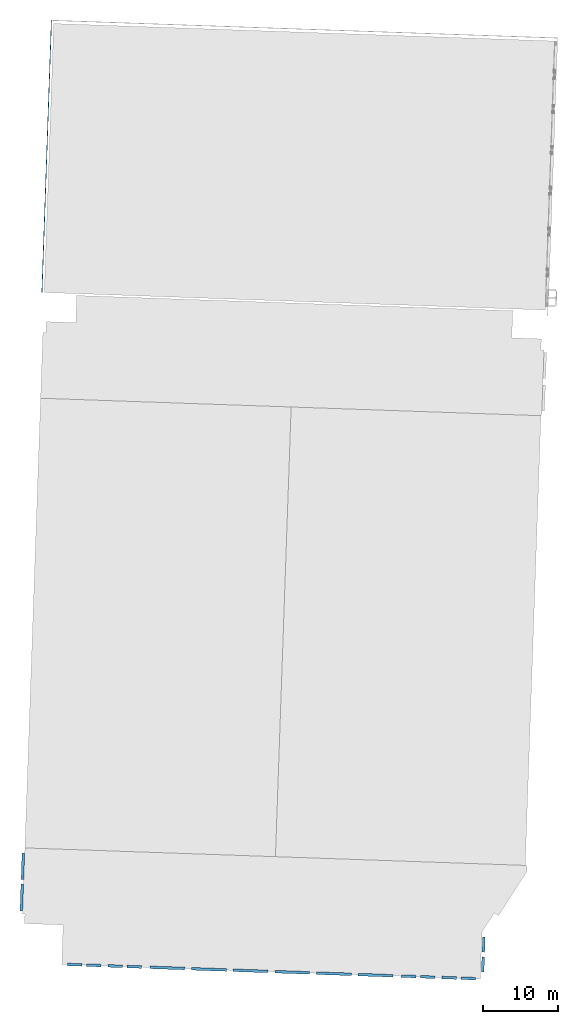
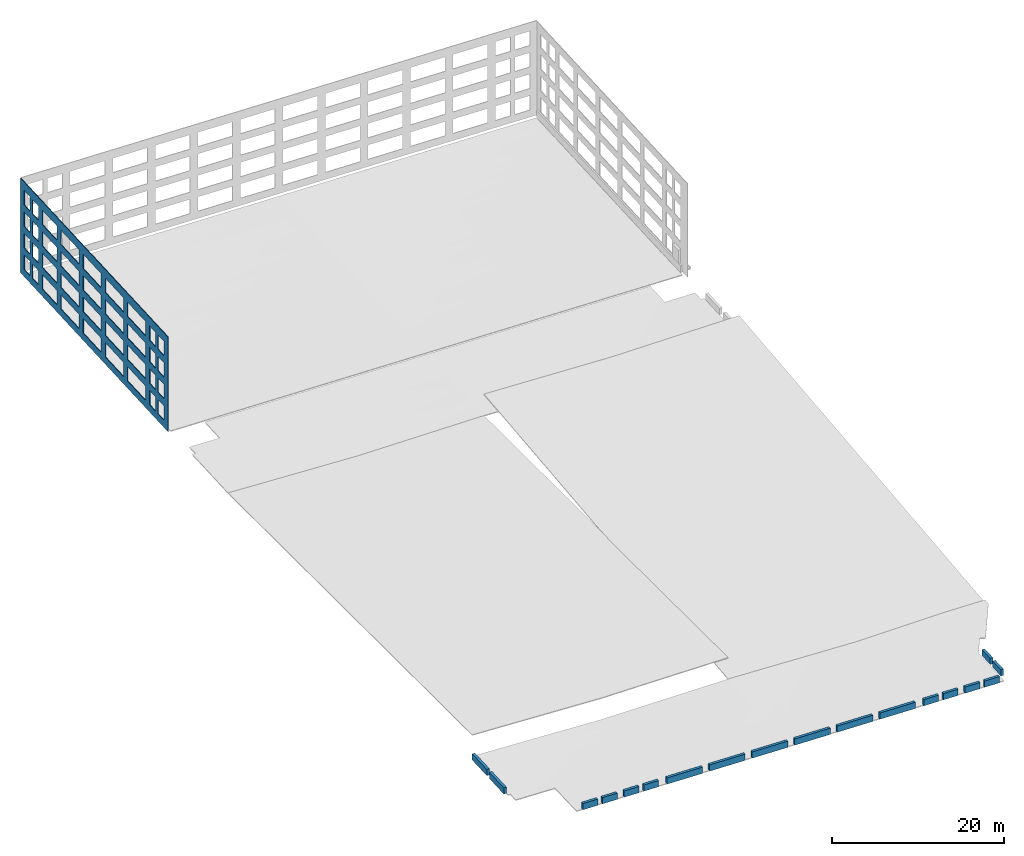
# One storey, part 2 of 7: 19 walls, 36 openings.
"""IFC2X3 building model written with IfcOpenShell, lengths in feet."""

from ifc_helpers import new_model, entity, si_unit, converted_unit, derived_unit, direction, frame, frame_2d, origin, origin_2d_with_axis, place, context, subcontext, project, spatial, rectangle, extrude, material, layer, layer_set, layer_usage, type_object, element, save


model = new_model("IFC2X3")

# Units and contexts
model_context = context("Model", 3, precision=0.0001, world=origin(), true_north=direction((0.999390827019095, 0.0348994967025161)))
body_context = subcontext(model_context, "Body", "Model", "MODEL_VIEW")
ifc_project = project(units=[converted_unit("LENGTHUNIT", "FOOT", entity("IfcRatioMeasure", 0.3048), si_unit("LENGTHUNIT", "METRE"), dimensions=[1, 0, 0, 0, 0, 0, 0]), converted_unit("AREAUNIT", "SQUARE FOOT", entity("IfcRatioMeasure", 0.09290304), si_unit("AREAUNIT", "SQUARE_METRE"), dimensions=[2, 0, 0, 0, 0, 0, 0]), converted_unit("VOLUMEUNIT", "CUBIC FOOT", entity("IfcRatioMeasure", 0.028316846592), si_unit("VOLUMEUNIT", "CUBIC_METRE"), dimensions=[3, 0, 0, 0, 0, 0, 0]), converted_unit("PLANEANGLEUNIT", "DEGREE", entity("IfcRatioMeasure", 0.0174532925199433), si_unit("PLANEANGLEUNIT", "RADIAN"), dimensions=[0, 0, 0, 0, 0, 0, 0]), si_unit("MASSUNIT", "GRAM", prefix="KILO"), si_unit("TIMEUNIT", "SECOND"), si_unit("FREQUENCYUNIT", "HERTZ"), si_unit("THERMODYNAMICTEMPERATUREUNIT", "DEGREE_CELSIUS"), derived_unit("THERMALTRANSMITTANCEUNIT", [(si_unit("MASSUNIT", "GRAM", prefix="KILO"), 1), (si_unit("THERMODYNAMICTEMPERATUREUNIT", "KELVIN"), -1), (si_unit("TIMEUNIT", "SECOND"), -3)]), derived_unit("VOLUMETRICFLOWRATEUNIT", [(si_unit("LENGTHUNIT", "METRE"), 3), (si_unit("TIMEUNIT", "SECOND"), -1)]), si_unit("ELECTRICCURRENTUNIT", "AMPERE"), si_unit("ELECTRICVOLTAGEUNIT", "VOLT"), si_unit("POWERUNIT", "WATT"), si_unit("FORCEUNIT", "NEWTON"), si_unit("ILLUMINANCEUNIT", "LUX"), si_unit("LUMINOUSFLUXUNIT", "LUMEN"), si_unit("LUMINOUSINTENSITYUNIT", "CANDELA"), derived_unit("USERDEFINED", [(si_unit("MASSUNIT", "GRAM", prefix="KILO"), -1), (si_unit("LENGTHUNIT", "METRE"), -2), (si_unit("TIMEUNIT", "SECOND"), 3), (si_unit("LUMINOUSFLUXUNIT", "LUMEN"), 1)]), derived_unit("LINEARVELOCITYUNIT", [(si_unit("LENGTHUNIT", "METRE"), 1), (si_unit("TIMEUNIT", "SECOND"), -1)]), si_unit("PRESSUREUNIT", "PASCAL"), derived_unit("USERDEFINED", [(si_unit("LENGTHUNIT", "METRE"), -2), (si_unit("MASSUNIT", "GRAM", prefix="KILO"), 1), (si_unit("TIMEUNIT", "SECOND"), -2)])], contexts=[model_context])

# Site, building, storey
site_placement = place(None, frame((892.518771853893, 322.38689265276, 0.00393700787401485), z_axis=(0.0, 0.0, 1.0), x_axis=(0.0348994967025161, 0.999390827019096, 0.0)))
site = spatial("IfcSite", under=ifc_project, at=site_placement, Name="Default", CompositionType="ELEMENT")
building_placement = place(site_placement, origin())
building = spatial("IfcBuilding", under=site, at=building_placement, CompositionType="ELEMENT")
storey_placement = place(building_placement, frame((0.0, 0.0, 567.0)))
storey = spatial("IfcBuildingStorey", under=building, at=storey_placement, Name="Existing Garage - 2nd Level", CompositionType="ELEMENT", Elevation=567.0)

# Wall, openings
ifc_material_1 = material(Name="Masonry - Brick")
ifc_layer_1 = layer(ifc_material_1, 0.302083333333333)
ifc_layer_set_1 = layer_set([ifc_layer_1], Name="Basic Wall:(Existing) Exterior - Brick Veneer 3 5/8\"")
ifc_layer_usage_1 = layer_usage(ifc_layer_set_1, "AXIS2", "POSITIVE", -0.151041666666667)
wall_type_1 = type_object("IfcWallType", Name="Basic Wall:(Existing) Exterior - Brick Veneer 3 5/8\"", PredefinedType="STANDARD", material=ifc_layer_set_1)
wall_1_placement = place(storey_placement, frame((224.1252097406, 458.112911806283, 0.0), z_axis=(0.0, 0.0, 1.0), x_axis=(-1.0, 0.0, 0.0)))
wall_1 = element("IfcWallStandardCase", 1, at=wall_1_placement, inside=storey, type_object=wall_type_1, material=ifc_layer_usage_1, Name="Basic Wall:(Existing) Exterior - Brick Veneer 3 5/8\"", ObjectType="Basic Wall:(Existing) Exterior - Brick Veneer 3 5/8\"", context=body_context, shape_type="SweptSolid", body=[
    extrude(rectangle(XDim=119.699789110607, YDim=0.302083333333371, at=frame_2d((59.8498945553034, -4.9960036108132e-16), x_axis=(-1.0, 0.0))), origin(), (0.0, 0.0, 1.0), 44.0),
])
opening_1_placement = place(wall_1_placement, origin())
element("IfcOpeningElement", 2, at=opening_1_placement, cuts=wall_1, Name="Basic Wall:(Existing) Exterior - Brick Veneer 3 5/8\"", ObjectType="Opening", context=body_context, shape_type="SweptSolid", body=[
    extrude(rectangle(XDim=6.66666666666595, YDim=4.74999999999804, at=frame_2d((1.4210854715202e-14, 5.6843418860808e-14), x_axis=(0.0, 1.0))), frame((5.40624999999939, 0.151041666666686, 36.6666666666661), z_axis=(0.0, -1.0, 0.0), x_axis=(1.0, 0.0, 0.0)), (0.0, 0.0, 1.0), 0.302083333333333),
])
opening_2_placement = place(wall_1_placement, origin())
element("IfcOpeningElement", 3, at=opening_2_placement, cuts=wall_1, Name="Basic Wall:(Existing) Exterior - Brick Veneer 3 5/8\"", ObjectType="Opening", context=body_context, shape_type="SweptSolid", body=[
    extrude(rectangle(XDim=6.66666666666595, YDim=4.74999999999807, at=frame_2d((0.0, 5.6843418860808e-14), x_axis=(0.0, 1.0))), frame((12.1562499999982, 0.151041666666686, 36.6666666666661), z_axis=(0.0, -1.0, 0.0), x_axis=(1.0, 0.0, 0.0)), (0.0, 0.0, 1.0), 0.302083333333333),
])
opening_3_placement = place(wall_1_placement, origin())
element("IfcOpeningElement", 4, at=opening_3_placement, cuts=wall_1, Name="Basic Wall:(Existing) Exterior - Brick Veneer 3 5/8\"", ObjectType="Opening", context=body_context, shape_type="SweptSolid", body=[
    extrude(rectangle(XDim=6.66666666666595, YDim=11.6666666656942, at=frame_2d((-1.4210854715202e-14, 5.6843418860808e-14), x_axis=(0.0, 1.0))), frame((23.6979166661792, 0.151041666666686, 36.6666666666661), z_axis=(0.0, -1.0, 0.0), x_axis=(1.0, 0.0, 0.0)), (0.0, 0.0, 1.0), 0.302083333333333),
])
opening_4_placement = place(wall_1_placement, origin())
element("IfcOpeningElement", 5, at=opening_4_placement, cuts=wall_1, Name="Basic Wall:(Existing) Exterior - Brick Veneer 3 5/8\"", ObjectType="Opening", context=body_context, shape_type="SweptSolid", body=[
    extrude(rectangle(XDim=6.66666666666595, YDim=14.6666666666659, at=frame_2d((-5.6843418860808e-14, 0.0), x_axis=(1.0, 0.0))), frame((40.1979166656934, 0.151041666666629, 36.6666666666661), z_axis=(0.0, -1.0, 0.0), x_axis=(0.0, 0.0, -1.0)), (0.0, 0.0, 1.0), 0.302083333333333),
])
opening_5_placement = place(wall_1_placement, origin())
element("IfcOpeningElement", 6, at=opening_5_placement, cuts=wall_1, Name="Basic Wall:(Existing) Exterior - Brick Veneer 3 5/8\"", ObjectType="Opening", context=body_context, shape_type="SweptSolid", body=[
    extrude(rectangle(XDim=6.66666666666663, YDim=14.6666666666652, at=frame_2d((0.0, 5.6843418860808e-14), x_axis=(0.0, 1.0))), frame((58.1979166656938, 0.151041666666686, 36.6666666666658), z_axis=(0.0, -1.0, 0.0), x_axis=(1.0, 0.0, 0.0)), (0.0, 0.0, 1.0), 0.302083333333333),
])
opening_6_placement = place(wall_1_placement, origin())
element("IfcOpeningElement", 7, at=opening_6_placement, cuts=wall_1, Name="Basic Wall:(Existing) Exterior - Brick Veneer 3 5/8\"", ObjectType="Opening", context=body_context, shape_type="SweptSolid", body=[
    extrude(rectangle(XDim=6.66666666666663, YDim=14.6666666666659, at=frame_2d((5.6843418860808e-14, 0.0), x_axis=(1.0, 0.0))), frame((76.1979166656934, 0.151041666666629, 36.6666666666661), z_axis=(0.0, -1.0, 0.0), x_axis=(0.0, 0.0, -1.0)), (0.0, 0.0, 1.0), 0.302083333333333),
])
opening_7_placement = place(wall_1_placement, origin())
element("IfcOpeningElement", 8, at=opening_7_placement, cuts=wall_1, Name="Basic Wall:(Existing) Exterior - Brick Veneer 3 5/8\"", ObjectType="Opening", context=body_context, shape_type="SweptSolid", body=[
    extrude(rectangle(XDim=6.66666666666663, YDim=14.6666666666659, at=frame_2d((-5.6843418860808e-14, 0.0), x_axis=(1.0, 0.0))), frame((94.1979166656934, 0.151041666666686, 36.6666666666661), z_axis=(0.0, -1.0, 0.0), x_axis=(0.0, 0.0, -1.0)), (0.0, 0.0, 1.0), 0.302083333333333),
])
opening_8_placement = place(wall_1_placement, origin())
element("IfcOpeningElement", 9, at=opening_8_placement, cuts=wall_1, Name="Basic Wall:(Existing) Exterior - Brick Veneer 3 5/8\"", ObjectType="Opening", context=body_context, shape_type="SweptSolid", body=[
    extrude(rectangle(XDim=6.6666666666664, YDim=4.75093622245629, at=frame_2d((0.0, 5.6843418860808e-14), x_axis=(0.0, 1.0))), frame((107.240051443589, 0.151041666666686, 36.6666666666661), z_axis=(0.0, -1.0, 0.0), x_axis=(1.0, 0.0, 0.0)), (0.0, 0.0, 1.0), 0.302083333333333),
])
opening_9_placement = place(wall_1_placement, origin())
element("IfcOpeningElement", 10, at=opening_9_placement, cuts=wall_1, Name="Basic Wall:(Existing) Exterior - Brick Veneer 3 5/8\"", ObjectType="Opening", context=body_context, shape_type="SweptSolid", body=[
    extrude(rectangle(XDim=6.66666666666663, YDim=4.75093622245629, at=frame_2d((-5.6843418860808e-14, 0.0), x_axis=(1.0, 0.0))), frame((113.990987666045, 0.151041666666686, 36.6666666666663), z_axis=(0.0, -1.0, 0.0), x_axis=(0.0, 0.0, 1.0)), (0.0, 0.0, 1.0), 0.302083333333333),
])
opening_10_placement = place(wall_1_placement, origin())
element("IfcOpeningElement", 11, at=opening_10_placement, cuts=wall_1, Name="Basic Wall:(Existing) Exterior - Brick Veneer 3 5/8\"", ObjectType="Opening", context=body_context, shape_type="SweptSolid", body=[
    extrude(rectangle(XDim=6.66666666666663, YDim=4.75093622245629, at=frame_2d((5.6843418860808e-14, 0.0), x_axis=(1.0, 0.0))), frame((107.240051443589, 0.151041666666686, 26.6666666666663), z_axis=(0.0, -1.0, 0.0), x_axis=(0.0, 0.0, -1.0)), (0.0, 0.0, 1.0), 0.302083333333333),
])
opening_11_placement = place(wall_1_placement, origin())
element("IfcOpeningElement", 12, at=opening_11_placement, cuts=wall_1, Name="Basic Wall:(Existing) Exterior - Brick Veneer 3 5/8\"", ObjectType="Opening", context=body_context, shape_type="SweptSolid", body=[
    extrude(rectangle(XDim=6.66666666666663, YDim=4.75093622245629, at=frame_2d((5.6843418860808e-14, 0.0), x_axis=(1.0, 0.0))), frame((113.990987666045, 0.151041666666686, 26.6666666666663), z_axis=(0.0, -1.0, 0.0), x_axis=(0.0, 0.0, -1.0)), (0.0, 0.0, 1.0), 0.302083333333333),
])
opening_12_placement = place(wall_1_placement, origin())
element("IfcOpeningElement", 13, at=opening_12_placement, cuts=wall_1, Name="Basic Wall:(Existing) Exterior - Brick Veneer 3 5/8\"", ObjectType="Opening", context=body_context, shape_type="SweptSolid", body=[
    extrude(rectangle(XDim=6.66666666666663, YDim=14.6666666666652, at=frame_2d((0.0, -5.6843418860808e-14), x_axis=(0.0, 1.0))), frame((94.1979166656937, 0.151041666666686, 26.6666666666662), z_axis=(0.0, -1.0, 0.0), x_axis=(1.0, 0.0, 0.0)), (0.0, 0.0, 1.0), 0.302083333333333),
])
opening_13_placement = place(wall_1_placement, origin())
element("IfcOpeningElement", 14, at=opening_13_placement, cuts=wall_1, Name="Basic Wall:(Existing) Exterior - Brick Veneer 3 5/8\"", ObjectType="Opening", context=body_context, shape_type="SweptSolid", body=[
    extrude(rectangle(XDim=6.66666666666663, YDim=14.6666666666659, at=frame_2d((5.6843418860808e-14, 0.0), x_axis=(1.0, 0.0))), frame((76.1979166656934, 0.151041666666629, 26.6666666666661), z_axis=(0.0, -1.0, 0.0), x_axis=(0.0, 0.0, -1.0)), (0.0, 0.0, 1.0), 0.302083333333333),
])
opening_14_placement = place(wall_1_placement, origin())
element("IfcOpeningElement", 15, at=opening_14_placement, cuts=wall_1, Name="Basic Wall:(Existing) Exterior - Brick Veneer 3 5/8\"", ObjectType="Opening", context=body_context, shape_type="SweptSolid", body=[
    extrude(rectangle(XDim=6.66666666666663, YDim=14.6666666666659, at=frame_2d((-5.6843418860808e-14, 0.0), x_axis=(1.0, 0.0))), frame((58.1979166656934, 0.151041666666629, 26.6666666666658), z_axis=(0.0, -1.0, 0.0), x_axis=(0.0, 0.0, -1.0)), (0.0, 0.0, 1.0), 0.302083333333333),
])
opening_15_placement = place(wall_1_placement, origin())
element("IfcOpeningElement", 16, at=opening_15_placement, cuts=wall_1, Name="Basic Wall:(Existing) Exterior - Brick Veneer 3 5/8\"", ObjectType="Opening", context=body_context, shape_type="SweptSolid", body=[
    extrude(rectangle(XDim=6.66666666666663, YDim=14.6666666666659, at=frame_2d((5.6843418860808e-14, 0.0), x_axis=(1.0, 0.0))), frame((40.1979166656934, 0.151041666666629, 26.6666666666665), z_axis=(0.0, -1.0, 0.0), x_axis=(0.0, 0.0, -1.0)), (0.0, 0.0, 1.0), 0.302083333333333),
])
opening_16_placement = place(wall_1_placement, origin())
element("IfcOpeningElement", 17, at=opening_16_placement, cuts=wall_1, Name="Basic Wall:(Existing) Exterior - Brick Veneer 3 5/8\"", ObjectType="Opening", context=body_context, shape_type="SweptSolid", body=[
    extrude(rectangle(XDim=6.66666666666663, YDim=11.6666666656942, at=frame_2d((1.4210854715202e-14, -5.6843418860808e-14), x_axis=(0.0, 1.0))), frame((23.6979166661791, 0.151041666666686, 26.6666666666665), z_axis=(0.0, -1.0, 0.0), x_axis=(1.0, 0.0, 0.0)), (0.0, 0.0, 1.0), 0.302083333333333),
])
opening_17_placement = place(wall_1_placement, origin())
element("IfcOpeningElement", 18, at=opening_17_placement, cuts=wall_1, Name="Basic Wall:(Existing) Exterior - Brick Veneer 3 5/8\"", ObjectType="Opening", context=body_context, shape_type="SweptSolid", body=[
    extrude(rectangle(XDim=6.66666666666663, YDim=4.74999999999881, at=frame_2d((0.0, -5.6843418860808e-14), x_axis=(0.0, 1.0))), frame((12.1562499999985, 0.151041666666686, 26.6666666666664), z_axis=(0.0, -1.0, 0.0), x_axis=(-1.0, 0.0, 0.0)), (0.0, 0.0, 1.0), 0.302083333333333),
])
opening_18_placement = place(wall_1_placement, origin())
element("IfcOpeningElement", 19, at=opening_18_placement, cuts=wall_1, Name="Basic Wall:(Existing) Exterior - Brick Veneer 3 5/8\"", ObjectType="Opening", context=body_context, shape_type="SweptSolid", body=[
    extrude(rectangle(XDim=6.66666666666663, YDim=4.74999999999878, at=frame_2d((5.6843418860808e-14, -1.4210854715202e-14), x_axis=(1.0, 0.0))), frame((5.40624999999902, 0.151041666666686, 26.6666666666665), z_axis=(0.0, -1.0, 0.0), x_axis=(0.0, 0.0, -1.0)), (0.0, 0.0, 1.0), 0.302083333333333),
])
opening_19_placement = place(wall_1_placement, origin())
element("IfcOpeningElement", 20, at=opening_19_placement, cuts=wall_1, Name="Basic Wall:(Existing) Exterior - Brick Veneer 3 5/8\"", ObjectType="Opening", context=body_context, shape_type="SweptSolid", body=[
    extrude(rectangle(XDim=6.66666666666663, YDim=4.74999999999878, at=frame_2d((5.6843418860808e-14, -1.4210854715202e-14), x_axis=(1.0, 0.0))), frame((5.40624999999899, 0.151041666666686, 16.6666666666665), z_axis=(0.0, -1.0, 0.0), x_axis=(0.0, 0.0, -1.0)), (0.0, 0.0, 1.0), 0.302083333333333),
])
opening_20_placement = place(wall_1_placement, origin())
element("IfcOpeningElement", 21, at=opening_20_placement, cuts=wall_1, Name="Basic Wall:(Existing) Exterior - Brick Veneer 3 5/8\"", ObjectType="Opening", context=body_context, shape_type="SweptSolid", body=[
    extrude(rectangle(XDim=6.66666666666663, YDim=4.74999999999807, at=frame_2d((0.0, -5.6843418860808e-14), x_axis=(0.0, 1.0))), frame((12.1562499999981, 0.151041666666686, 16.6666666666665), z_axis=(0.0, -1.0, 0.0), x_axis=(1.0, 0.0, 0.0)), (0.0, 0.0, 1.0), 0.302083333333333),
])
opening_21_placement = place(wall_1_placement, origin())
element("IfcOpeningElement", 22, at=opening_21_placement, cuts=wall_1, Name="Basic Wall:(Existing) Exterior - Brick Veneer 3 5/8\"", ObjectType="Opening", context=body_context, shape_type="SweptSolid", body=[
    extrude(rectangle(XDim=6.66666666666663, YDim=11.666666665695, at=frame_2d((5.6843418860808e-14, 1.4210854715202e-14), x_axis=(1.0, 0.0))), frame((23.6979166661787, 0.151041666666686, 16.6666666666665), z_axis=(0.0, -1.0, 0.0), x_axis=(0.0, 0.0, -1.0)), (0.0, 0.0, 1.0), 0.302083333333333),
])
opening_22_placement = place(wall_1_placement, origin())
element("IfcOpeningElement", 23, at=opening_22_placement, cuts=wall_1, Name="Basic Wall:(Existing) Exterior - Brick Veneer 3 5/8\"", ObjectType="Opening", context=body_context, shape_type="SweptSolid", body=[
    extrude(rectangle(XDim=6.66666666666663, YDim=14.6666666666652, at=frame_2d((0.0, -5.6843418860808e-14), x_axis=(0.0, 1.0))), frame((40.1979166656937, 0.151041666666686, 16.6666666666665), z_axis=(0.0, -1.0, 0.0), x_axis=(1.0, 0.0, 0.0)), (0.0, 0.0, 1.0), 0.302083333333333),
])
opening_23_placement = place(wall_1_placement, origin())
element("IfcOpeningElement", 24, at=opening_23_placement, cuts=wall_1, Name="Basic Wall:(Existing) Exterior - Brick Veneer 3 5/8\"", ObjectType="Opening", context=body_context, shape_type="SweptSolid", body=[
    extrude(rectangle(XDim=6.66666666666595, YDim=14.6666666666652, at=frame_2d((0.0, 5.6843418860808e-14), x_axis=(0.0, 1.0))), frame((58.1979166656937, 0.151041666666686, 16.6666666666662), z_axis=(0.0, -1.0, 0.0), x_axis=(1.0, 0.0, 0.0)), (0.0, 0.0, 1.0), 0.302083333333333),
])
opening_24_placement = place(wall_1_placement, origin())
element("IfcOpeningElement", 25, at=opening_24_placement, cuts=wall_1, Name="Basic Wall:(Existing) Exterior - Brick Veneer 3 5/8\"", ObjectType="Opening", context=body_context, shape_type="SweptSolid", body=[
    extrude(rectangle(XDim=6.66666666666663, YDim=14.6666666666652, at=frame_2d((0.0, -5.6843418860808e-14), x_axis=(0.0, 1.0))), frame((76.1979166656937, 0.151041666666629, 16.6666666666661), z_axis=(0.0, -1.0, 0.0), x_axis=(1.0, 0.0, 0.0)), (0.0, 0.0, 1.0), 0.302083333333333),
])
opening_25_placement = place(wall_1_placement, origin())
element("IfcOpeningElement", 26, at=opening_25_placement, cuts=wall_1, Name="Basic Wall:(Existing) Exterior - Brick Veneer 3 5/8\"", ObjectType="Opening", context=body_context, shape_type="SweptSolid", body=[
    extrude(rectangle(XDim=6.66666666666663, YDim=14.6666666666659, at=frame_2d((-5.6843418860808e-14, 0.0), x_axis=(1.0, 0.0))), frame((94.1979166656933, 0.151041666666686, 16.6666666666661), z_axis=(0.0, -1.0, 0.0), x_axis=(0.0, 0.0, -1.0)), (0.0, 0.0, 1.0), 0.302083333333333),
])
opening_26_placement = place(wall_1_placement, origin())
element("IfcOpeningElement", 27, at=opening_26_placement, cuts=wall_1, Name="Basic Wall:(Existing) Exterior - Brick Veneer 3 5/8\"", ObjectType="Opening", context=body_context, shape_type="SweptSolid", body=[
    extrude(rectangle(XDim=6.66666666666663, YDim=4.75093622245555, at=frame_2d((0.0, -5.6843418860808e-14), x_axis=(0.0, 1.0))), frame((107.240051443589, 0.151041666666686, 16.6666666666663), z_axis=(0.0, -1.0, 0.0), x_axis=(1.0, 0.0, 0.0)), (0.0, 0.0, 1.0), 0.302083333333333),
])
opening_27_placement = place(wall_1_placement, origin())
element("IfcOpeningElement", 28, at=opening_27_placement, cuts=wall_1, Name="Basic Wall:(Existing) Exterior - Brick Veneer 3 5/8\"", ObjectType="Opening", context=body_context, shape_type="SweptSolid", body=[
    extrude(rectangle(XDim=6.66666666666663, YDim=4.75093622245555, at=frame_2d((0.0, -5.6843418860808e-14), x_axis=(0.0, 1.0))), frame((113.990987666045, 0.151041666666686, 16.6666666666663), z_axis=(0.0, -1.0, 0.0), x_axis=(1.0, 0.0, 0.0)), (0.0, 0.0, 1.0), 0.302083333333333),
])
opening_28_placement = place(wall_1_placement, origin())
element("IfcOpeningElement", 29, at=opening_28_placement, cuts=wall_1, Name="Basic Wall:(Existing) Exterior - Brick Veneer 3 5/8\"", ObjectType="Opening", context=body_context, shape_type="SweptSolid", body=[
    extrude(rectangle(XDim=6.66666666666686, YDim=4.75093622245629, at=frame_2d((-5.6843418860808e-14, 0.0), x_axis=(1.0, 0.0))), frame((107.240051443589, 0.151041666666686, 6.66666666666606), z_axis=(0.0, -1.0, 0.0), x_axis=(0.0, 0.0, -1.0)), (0.0, 0.0, 1.0), 0.302083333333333),
])
opening_29_placement = place(wall_1_placement, origin())
element("IfcOpeningElement", 30, at=opening_29_placement, cuts=wall_1, Name="Basic Wall:(Existing) Exterior - Brick Veneer 3 5/8\"", ObjectType="Opening", context=body_context, shape_type="SweptSolid", body=[
    extrude(rectangle(XDim=6.66666666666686, YDim=4.75093622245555, at=frame_2d((0.0, 5.6843418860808e-14), x_axis=(0.0, 1.0))), frame((113.990987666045, 0.151041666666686, 6.66666666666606), z_axis=(0.0, -1.0, 0.0), x_axis=(1.0, 0.0, 0.0)), (0.0, 0.0, 1.0), 0.302083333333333),
])
opening_30_placement = place(wall_1_placement, origin())
element("IfcOpeningElement", 31, at=opening_30_placement, cuts=wall_1, Name="Basic Wall:(Existing) Exterior - Brick Veneer 3 5/8\"", ObjectType="Opening", context=body_context, shape_type="SweptSolid", body=[
    extrude(rectangle(XDim=6.66666666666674, YDim=14.6666666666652, at=frame_2d((0.0, 0.0), x_axis=(0.0, 1.0))), frame((94.1979166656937, 0.151041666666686, 6.66666666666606), z_axis=(0.0, -1.0, 0.0), x_axis=(1.0, 0.0, 0.0)), (0.0, 0.0, 1.0), 0.302083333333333),
])
opening_31_placement = place(wall_1_placement, origin())
element("IfcOpeningElement", 32, at=opening_31_placement, cuts=wall_1, Name="Basic Wall:(Existing) Exterior - Brick Veneer 3 5/8\"", ObjectType="Opening", context=body_context, shape_type="SweptSolid", body=[
    extrude(rectangle(XDim=6.66666666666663, YDim=14.6666666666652, at=frame_2d((0.0, -5.6843418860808e-14), x_axis=(0.0, 1.0))), frame((76.1979166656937, 0.151041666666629, 6.66666666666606), z_axis=(0.0, -1.0, 0.0), x_axis=(1.0, 0.0, 0.0)), (0.0, 0.0, 1.0), 0.302083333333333),
])
opening_32_placement = place(wall_1_placement, origin())
element("IfcOpeningElement", 33, at=opening_32_placement, cuts=wall_1, Name="Basic Wall:(Existing) Exterior - Brick Veneer 3 5/8\"", ObjectType="Opening", context=body_context, shape_type="SweptSolid", body=[
    extrude(rectangle(XDim=6.6666666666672, YDim=14.6666666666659, at=origin_2d_with_axis()), frame((58.1979166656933, 0.151041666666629, 6.66666666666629), z_axis=(0.0, -1.0, 0.0), x_axis=(0.0, 0.0, -1.0)), (0.0, 0.0, 1.0), 0.302083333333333),
])
opening_33_placement = place(wall_1_placement, origin())
element("IfcOpeningElement", 34, at=opening_33_placement, cuts=wall_1, Name="Basic Wall:(Existing) Exterior - Brick Veneer 3 5/8\"", ObjectType="Opening", context=body_context, shape_type="SweptSolid", body=[
    extrude(rectangle(XDim=6.66666666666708, YDim=14.6666666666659, at=frame_2d((5.6843418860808e-14, 0.0), x_axis=(1.0, 0.0))), frame((40.1979166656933, 0.151041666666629, 6.66666666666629), z_axis=(0.0, -1.0, 0.0), x_axis=(0.0, 0.0, -1.0)), (0.0, 0.0, 1.0), 0.302083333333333),
])
opening_34_placement = place(wall_1_placement, origin())
element("IfcOpeningElement", 35, at=opening_34_placement, cuts=wall_1, Name="Basic Wall:(Existing) Exterior - Brick Veneer 3 5/8\"", ObjectType="Opening", context=body_context, shape_type="SweptSolid", body=[
    extrude(rectangle(XDim=6.66666666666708, YDim=11.666666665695, at=frame_2d((5.6843418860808e-14, 1.4210854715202e-14), x_axis=(1.0, 0.0))), frame((23.6979166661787, 0.151041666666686, 6.66666666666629), z_axis=(0.0, -1.0, 0.0), x_axis=(0.0, 0.0, -1.0)), (0.0, 0.0, 1.0), 0.302083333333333),
])
opening_35_placement = place(wall_1_placement, origin())
element("IfcOpeningElement", 36, at=opening_35_placement, cuts=wall_1, Name="Basic Wall:(Existing) Exterior - Brick Veneer 3 5/8\"", ObjectType="Opening", context=body_context, shape_type="SweptSolid", body=[
    extrude(rectangle(XDim=6.66666666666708, YDim=4.74999999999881, at=frame_2d((0.0, -5.6843418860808e-14), x_axis=(0.0, 1.0))), frame((12.1562499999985, 0.151041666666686, 6.66666666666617), z_axis=(0.0, -1.0, 0.0), x_axis=(-1.0, 0.0, 0.0)), (0.0, 0.0, 1.0), 0.302083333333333),
])
opening_36_placement = place(wall_1_placement, origin())
element("IfcOpeningElement", 37, at=opening_36_placement, cuts=wall_1, Name="Basic Wall:(Existing) Exterior - Brick Veneer 3 5/8\"", ObjectType="Opening", context=body_context, shape_type="SweptSolid", body=[
    extrude(rectangle(XDim=6.66666666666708, YDim=4.74999999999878, at=frame_2d((5.6843418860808e-14, 1.4210854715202e-14), x_axis=(1.0, 0.0))), frame((5.40624999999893, 0.151041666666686, 6.66666666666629), z_axis=(0.0, -1.0, 0.0), x_axis=(0.0, 0.0, -1.0)), (0.0, 0.0, 1.0), 0.302083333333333),
])

# Walls
ifc_layer_2 = layer(ifc_material_1, 0.302083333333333)
ifc_material_2 = material(Name="Misc. Air Layers - Air Space")
ifc_layer_3 = layer(ifc_material_2, 0.197916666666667)
ifc_material_3 = material(Name="Concrete - Cast-in-Place Concrete_hatch surface")
ifc_layer_4 = layer(ifc_material_3, 0.666666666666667)
ifc_layer_set_2 = layer_set([ifc_layer_2, ifc_layer_3, ifc_layer_4], Name="Basic Wall:(existing)Exterior - Brick on Conc - 1'-2\"(2\" air space)")
ifc_layer_usage_2 = layer_usage(ifc_layer_set_2, "AXIS2", "POSITIVE", -0.583333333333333)
wall_type_2 = type_object("IfcWallType", Name="Basic Wall:(existing)Exterior - Brick on Conc - 1'-2\"(2\" air space)", PredefinedType="STANDARD", material=ifc_layer_set_2)
wall_2_placement = place(storey_placement, frame((-187.572745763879, 253.847286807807, 0.0)))
element("IfcWallStandardCase", 38, at=wall_2_placement, inside=storey, type_object=wall_type_2, material=ifc_layer_usage_2, Name="Basic Wall:(existing)Exterior - Brick on Conc - 1'-2\"(2\" air space)", ObjectType="Basic Wall:(existing)Exterior - Brick on Conc - 1'-2\"(2\" air space)", context=body_context, shape_type="SweptSolid", body=[
    extrude(rectangle(XDim=6.66666666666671, YDim=1.16666666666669, at=frame_2d((3.33333333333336, -5.82867087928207e-15), x_axis=(-1.0, 0.0))), origin(), (0.0, 0.0, 1.0), 2.89583333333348),
])
ifc_layer_usage_3 = layer_usage(ifc_layer_set_2, "AXIS2", "POSITIVE", -0.583333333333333)
wall_3_placement = place(storey_placement, frame((-178.906079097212, 253.847286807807, 0.0)))
element("IfcWallStandardCase", 39, at=wall_3_placement, inside=storey, type_object=wall_type_2, material=ifc_layer_usage_3, Name="Basic Wall:(existing)Exterior - Brick on Conc - 1'-2\"(2\" air space)", ObjectType="Basic Wall:(existing)Exterior - Brick on Conc - 1'-2\"(2\" air space)", context=body_context, shape_type="SweptSolid", body=[
    extrude(rectangle(XDim=6.66666666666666, YDim=1.16666666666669, at=frame_2d((3.33333333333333, -5.82867087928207e-15), x_axis=(-1.0, 0.0))), origin(), (0.0, 0.0, 1.0), 2.89583333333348),
])
ifc_layer_usage_4 = layer_usage(ifc_layer_set_2, "AXIS2", "POSITIVE", -0.583333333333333)
wall_4_placement = place(storey_placement, frame((-190.656079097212, 436.597423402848, 0.0), z_axis=(0.0, 0.0, 1.0), x_axis=(0.0, -1.0, 0.0)))
element("IfcWallStandardCase", 40, at=wall_4_placement, inside=storey, type_object=wall_type_2, material=ifc_layer_usage_4, Name="Basic Wall:(existing)Exterior - Brick on Conc - 1'-2\"(2\" air space)", ObjectType="Basic Wall:(existing)Exterior - Brick on Conc - 1'-2\"(2\" air space)", context=body_context, shape_type="SweptSolid", body=[
    extrude(rectangle(XDim=6.41670081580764, YDim=1.16666666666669, at=frame_2d((3.20835040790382, -3.38618022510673e-15), x_axis=(-1.0, 0.0))), origin(), (0.0, 0.0, 1.0), 2.89583333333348),
])
ifc_layer_usage_5 = layer_usage(ifc_layer_set_2, "AXIS2", "POSITIVE", -0.583333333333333)
wall_5_placement = place(storey_placement, frame((-190.656079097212, 428.180722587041, 0.0), z_axis=(0.0, 0.0, 1.0), x_axis=(0.0, -1.0, 0.0)))
element("IfcWallStandardCase", 41, at=wall_5_placement, inside=storey, type_object=wall_type_2, material=ifc_layer_usage_5, Name="Basic Wall:(existing)Exterior - Brick on Conc - 1'-2\"(2\" air space)", ObjectType="Basic Wall:(existing)Exterior - Brick on Conc - 1'-2\"(2\" air space)", context=body_context, shape_type="SweptSolid", body=[
    extrude(rectangle(XDim=6.41670081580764, YDim=1.16666666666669, at=frame_2d((3.20835040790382, -3.38618022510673e-15), x_axis=(-1.0, 0.0))), origin(), (0.0, 0.0, 1.0), 2.89583333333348),
])
ifc_layer_usage_6 = layer_usage(ifc_layer_set_2, "AXIS2", "POSITIVE", -0.583333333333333)
wall_6_placement = place(storey_placement, frame((-190.656079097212, 418.764021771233, 0.0), z_axis=(0.0, 0.0, 1.0), x_axis=(0.0, -1.0, 0.0)))
element("IfcWallStandardCase", 42, at=wall_6_placement, inside=storey, type_object=wall_type_2, material=ifc_layer_usage_6, Name="Basic Wall:(existing)Exterior - Brick on Conc - 1'-2\"(2\" air space)", ObjectType="Basic Wall:(existing)Exterior - Brick on Conc - 1'-2\"(2\" air space)", context=body_context, shape_type="SweptSolid", body=[
    extrude(rectangle(XDim=6.41670081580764, YDim=1.16666666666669, at=frame_2d((3.20835040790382, -3.38618022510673e-15), x_axis=(-1.0, 0.0))), origin(), (0.0, 0.0, 1.0), 2.89583333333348),
])
ifc_layer_usage_7 = layer_usage(ifc_layer_set_2, "AXIS2", "POSITIVE", -0.583333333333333)
wall_7_placement = place(storey_placement, frame((-190.656079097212, 410.347320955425, 0.0), z_axis=(0.0, 0.0, 1.0), x_axis=(0.0, -1.0, 0.0)))
element("IfcWallStandardCase", 43, at=wall_7_placement, inside=storey, type_object=wall_type_2, material=ifc_layer_usage_7, Name="Basic Wall:(existing)Exterior - Brick on Conc - 1'-2\"(2\" air space)", ObjectType="Basic Wall:(existing)Exterior - Brick on Conc - 1'-2\"(2\" air space)", context=body_context, shape_type="SweptSolid", body=[
    extrude(rectangle(XDim=6.41670081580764, YDim=1.16666666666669, at=frame_2d((3.20835040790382, -3.38618022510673e-15), x_axis=(-1.0, 0.0))), origin(), (0.0, 0.0, 1.0), 2.89583333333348),
])
ifc_layer_usage_8 = layer_usage(ifc_layer_set_2, "AXIS2", "POSITIVE", -0.583333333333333)
wall_8_placement = place(storey_placement, frame((-190.656079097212, 400.263953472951, 0.0), z_axis=(0.0, 0.0, 1.0), x_axis=(0.0, -1.0, 0.0)))
element("IfcWallStandardCase", 44, at=wall_8_placement, inside=storey, type_object=wall_type_2, material=ifc_layer_usage_8, Name="Basic Wall:(existing)Exterior - Brick on Conc - 1'-2\"(2\" air space)", ObjectType="Basic Wall:(existing)Exterior - Brick on Conc - 1'-2\"(2\" air space)", context=body_context, shape_type="SweptSolid", body=[
    extrude(rectangle(XDim=15.3333333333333, YDim=1.16666666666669, at=frame_2d((7.66666666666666, 6.10622663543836e-16), x_axis=(-1.0, 0.0))), origin(), (0.0, 0.0, 1.0), 2.89583333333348),
])
ifc_layer_usage_9 = layer_usage(ifc_layer_set_2, "AXIS2", "POSITIVE", -0.583333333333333)
wall_9_placement = place(storey_placement, frame((-190.656079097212, 381.930620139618, 0.0), z_axis=(0.0, 0.0, 1.0), x_axis=(0.0, -1.0, 0.0)))
element("IfcWallStandardCase", 45, at=wall_9_placement, inside=storey, type_object=wall_type_2, material=ifc_layer_usage_9, Name="Basic Wall:(existing)Exterior - Brick on Conc - 1'-2\"(2\" air space)", ObjectType="Basic Wall:(existing)Exterior - Brick on Conc - 1'-2\"(2\" air space)", context=body_context, shape_type="SweptSolid", body=[
    extrude(rectangle(XDim=15.3333333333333, YDim=1.16666666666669, at=frame_2d((7.66666666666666, 6.10622663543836e-16), x_axis=(-1.0, 0.0))), origin(), (0.0, 0.0, 1.0), 2.89583333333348),
])
ifc_layer_usage_10 = layer_usage(ifc_layer_set_2, "AXIS2", "POSITIVE", -0.583333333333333)
wall_10_placement = place(storey_placement, frame((-190.656079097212, 363.597286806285, 0.0), z_axis=(0.0, 0.0, 1.0), x_axis=(0.0, -1.0, 0.0)))
element("IfcWallStandardCase", 46, at=wall_10_placement, inside=storey, type_object=wall_type_2, material=ifc_layer_usage_10, Name="Basic Wall:(existing)Exterior - Brick on Conc - 1'-2\"(2\" air space)", ObjectType="Basic Wall:(existing)Exterior - Brick on Conc - 1'-2\"(2\" air space)", context=body_context, shape_type="SweptSolid", body=[
    extrude(rectangle(XDim=15.3333333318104, YDim=1.16666666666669, at=frame_2d((7.66666666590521, 6.10622663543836e-16), x_axis=(-1.0, 0.0))), origin(), (0.0, 0.0, 1.0), 2.89583333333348),
])
ifc_layer_usage_11 = layer_usage(ifc_layer_set_2, "AXIS2", "POSITIVE", -0.583333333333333)
wall_11_placement = place(storey_placement, frame((-190.656079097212, 345.263953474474, 0.0), z_axis=(0.0, 0.0, 1.0), x_axis=(0.0, -1.0, 0.0)))
element("IfcWallStandardCase", 47, at=wall_11_placement, inside=storey, type_object=wall_type_2, material=ifc_layer_usage_11, Name="Basic Wall:(existing)Exterior - Brick on Conc - 1'-2\"(2\" air space)", ObjectType="Basic Wall:(existing)Exterior - Brick on Conc - 1'-2\"(2\" air space)", context=body_context, shape_type="SweptSolid", body=[
    extrude(rectangle(XDim=15.3331147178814, YDim=1.16666666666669, at=frame_2d((7.66655735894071, 6.10622663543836e-16), x_axis=(-1.0, 0.0))), origin(), (0.0, 0.0, 1.0), 2.89583333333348),
])
ifc_layer_usage_12 = layer_usage(ifc_layer_set_2, "AXIS2", "POSITIVE", -0.583333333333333)
wall_12_placement = place(storey_placement, frame((-190.656079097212, 326.930838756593, 0.0), z_axis=(0.0, 0.0, 1.0), x_axis=(0.0, -1.0, 0.0)))
element("IfcWallStandardCase", 48, at=wall_12_placement, inside=storey, type_object=wall_type_2, material=ifc_layer_usage_12, Name="Basic Wall:(existing)Exterior - Brick on Conc - 1'-2\"(2\" air space)", ObjectType="Basic Wall:(existing)Exterior - Brick on Conc - 1'-2\"(2\" air space)", context=body_context, shape_type="SweptSolid", body=[
    extrude(rectangle(XDim=15.3333333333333, YDim=1.16666666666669, at=frame_2d((7.66666666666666, 6.10622663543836e-16), x_axis=(-1.0, 0.0))), origin(), (0.0, 0.0, 1.0), 2.89583333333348),
])
ifc_layer_usage_13 = layer_usage(ifc_layer_set_2, "AXIS2", "POSITIVE", -0.583333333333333)
wall_13_placement = place(storey_placement, frame((-190.656079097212, 308.59750542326, 0.0), z_axis=(0.0, 0.0, 1.0), x_axis=(0.0, -1.0, 0.0)))
element("IfcWallStandardCase", 49, at=wall_13_placement, inside=storey, type_object=wall_type_2, material=ifc_layer_usage_13, Name="Basic Wall:(existing)Exterior - Brick on Conc - 1'-2\"(2\" air space)", ObjectType="Basic Wall:(existing)Exterior - Brick on Conc - 1'-2\"(2\" air space)", context=body_context, shape_type="SweptSolid", body=[
    extrude(rectangle(XDim=15.3333333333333, YDim=1.16666666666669, at=frame_2d((7.66666666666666, 6.10622663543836e-16), x_axis=(-1.0, 0.0))), origin(), (0.0, 0.0, 1.0), 2.89583333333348),
])
ifc_layer_usage_14 = layer_usage(ifc_layer_set_2, "AXIS2", "POSITIVE", -0.583333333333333)
wall_14_placement = place(storey_placement, frame((-190.656079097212, 289.597286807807, 0.0), z_axis=(0.0, 0.0, 1.0), x_axis=(0.0, -1.0, 0.0)))
element("IfcWallStandardCase", 50, at=wall_14_placement, inside=storey, type_object=wall_type_2, material=ifc_layer_usage_14, Name="Basic Wall:(existing)Exterior - Brick on Conc - 1'-2\"(2\" air space)", ObjectType="Basic Wall:(existing)Exterior - Brick on Conc - 1'-2\"(2\" air space)", context=body_context, shape_type="SweptSolid", body=[
    extrude(rectangle(XDim=6.41666666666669, YDim=1.16666666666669, at=frame_2d((3.20833333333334, -3.38618022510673e-15), x_axis=(-1.0, 0.0))), origin(), (0.0, 0.0, 1.0), 2.89583333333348),
])
ifc_layer_usage_15 = layer_usage(ifc_layer_set_2, "AXIS2", "POSITIVE", -0.583333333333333)
wall_15_placement = place(storey_placement, frame((-190.656079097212, 281.180620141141, 0.0), z_axis=(0.0, 0.0, 1.0), x_axis=(0.0, -1.0, 0.0)))
element("IfcWallStandardCase", 51, at=wall_15_placement, inside=storey, type_object=wall_type_2, material=ifc_layer_usage_15, Name="Basic Wall:(existing)Exterior - Brick on Conc - 1'-2\"(2\" air space)", ObjectType="Basic Wall:(existing)Exterior - Brick on Conc - 1'-2\"(2\" air space)", context=body_context, shape_type="SweptSolid", body=[
    extrude(rectangle(XDim=6.41666666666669, YDim=1.16666666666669, at=frame_2d((3.20833333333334, -3.38618022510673e-15), x_axis=(-1.0, 0.0))), origin(), (0.0, 0.0, 1.0), 2.89583333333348),
])
ifc_layer_usage_16 = layer_usage(ifc_layer_set_2, "AXIS2", "POSITIVE", -0.583333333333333)
wall_16_placement = place(storey_placement, frame((-190.656079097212, 271.763953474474, 0.0), z_axis=(0.0, 0.0, 1.0), x_axis=(0.0, -1.0, 0.0)))
element("IfcWallStandardCase", 52, at=wall_16_placement, inside=storey, type_object=wall_type_2, material=ifc_layer_usage_16, Name="Basic Wall:(existing)Exterior - Brick on Conc - 1'-2\"(2\" air space)", ObjectType="Basic Wall:(existing)Exterior - Brick on Conc - 1'-2\"(2\" air space)", context=body_context, shape_type="SweptSolid", body=[
    extrude(rectangle(XDim=6.41666666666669, YDim=1.16666666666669, at=frame_2d((3.20833333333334, -3.38618022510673e-15), x_axis=(-1.0, 0.0))), origin(), (0.0, 0.0, 1.0), 2.89583333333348),
])
ifc_layer_usage_17 = layer_usage(ifc_layer_set_2, "AXIS2", "POSITIVE", -0.583333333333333)
wall_17_placement = place(storey_placement, frame((-190.656079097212, 263.347286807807, 0.0), z_axis=(0.0, 0.0, 1.0), x_axis=(0.0, -1.0, 0.0)))
element("IfcWallStandardCase", 53, at=wall_17_placement, inside=storey, type_object=wall_type_2, material=ifc_layer_usage_17, Name="Basic Wall:(existing)Exterior - Brick on Conc - 1'-2\"(2\" air space)", ObjectType="Basic Wall:(existing)Exterior - Brick on Conc - 1'-2\"(2\" air space)", context=body_context, shape_type="SweptSolid", body=[
    extrude(rectangle(XDim=6.4166666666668, YDim=1.16666666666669, at=frame_2d((3.2083333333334, -3.38618022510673e-15), x_axis=(-1.0, 0.0))), origin(), (0.0, 0.0, 1.0), 2.89583333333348),
])
ifc_layer_usage_18 = layer_usage(ifc_layer_set_2, "AXIS2", "POSITIVE", -0.583333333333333)
wall_18_placement = place(storey_placement, frame((-156.072745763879, 457.680620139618, 0.0), z_axis=(0.0, 0.0, 1.0), x_axis=(-1.0, 0.0, 0.0)))
element("IfcWallStandardCase", 54, at=wall_18_placement, inside=storey, type_object=wall_type_2, material=ifc_layer_usage_18, Name="Basic Wall:(existing)Exterior - Brick on Conc - 1'-2\"(2\" air space)", ObjectType="Basic Wall:(existing)Exterior - Brick on Conc - 1'-2\"(2\" air space)", context=body_context, shape_type="SweptSolid", body=[
    extrude(rectangle(XDim=11.8333333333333, YDim=1.16666666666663, at=frame_2d((5.91666666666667, -5.32907051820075e-15), x_axis=(-1.0, 0.0))), origin(), (0.0, 0.0, 1.0), 2.89583333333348),
])
ifc_layer_usage_19 = layer_usage(ifc_layer_set_2, "AXIS2", "NEGATIVE", 0.583333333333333)
wall_19_placement = place(storey_placement, frame((-154.072745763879, 457.680620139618, 0.0)))
element("IfcWallStandardCase", 55, at=wall_19_placement, inside=storey, type_object=wall_type_2, material=ifc_layer_usage_19, Name="Basic Wall:(existing)Exterior - Brick on Conc - 1'-2\"(2\" air space)", ObjectType="Basic Wall:(existing)Exterior - Brick on Conc - 1'-2\"(2\" air space)", context=body_context, shape_type="SweptSolid", body=[
    extrude(rectangle(XDim=11.8333333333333, YDim=1.16666666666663, at=frame_2d((5.91666666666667, 5.32907051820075e-15), x_axis=(-1.0, 0.0))), origin(), (0.0, 0.0, 1.0), 2.89583333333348),
])

save(model, "model.ifc")
